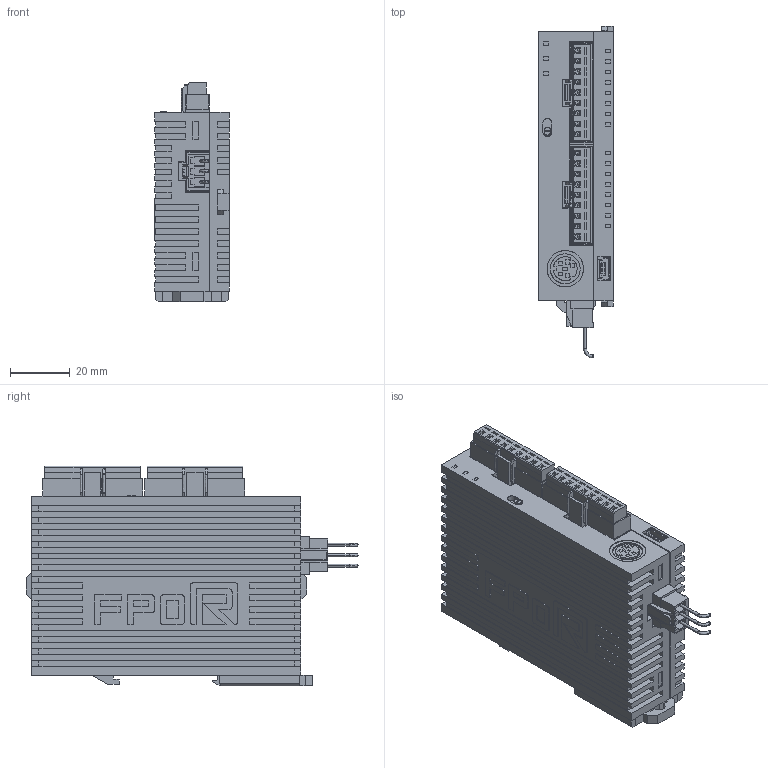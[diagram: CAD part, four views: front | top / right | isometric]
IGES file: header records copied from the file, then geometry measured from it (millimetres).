
Start section: SolidWorks IGES file using analytic representation for surfaces
Global section: file name: C:\catalog\FP0R_catalog\afp0rc14rm\afp0rc14rm.IGS; native system: SolidWorks 2010; preprocessor: SolidWorks 2010; author: ek1676; date: 130628.115810; units: millimetre
Bounding box: 25 x 111.2 x 73.6 mm (x, y, z)
Surface area: 30511.6 mm2 (no closed solid volume)
Topology: 0 solids, 0 shells, 1540 faces, 9444 edges, 9444 vertices
Faces by surface type: bspline 1471, revolution 69
